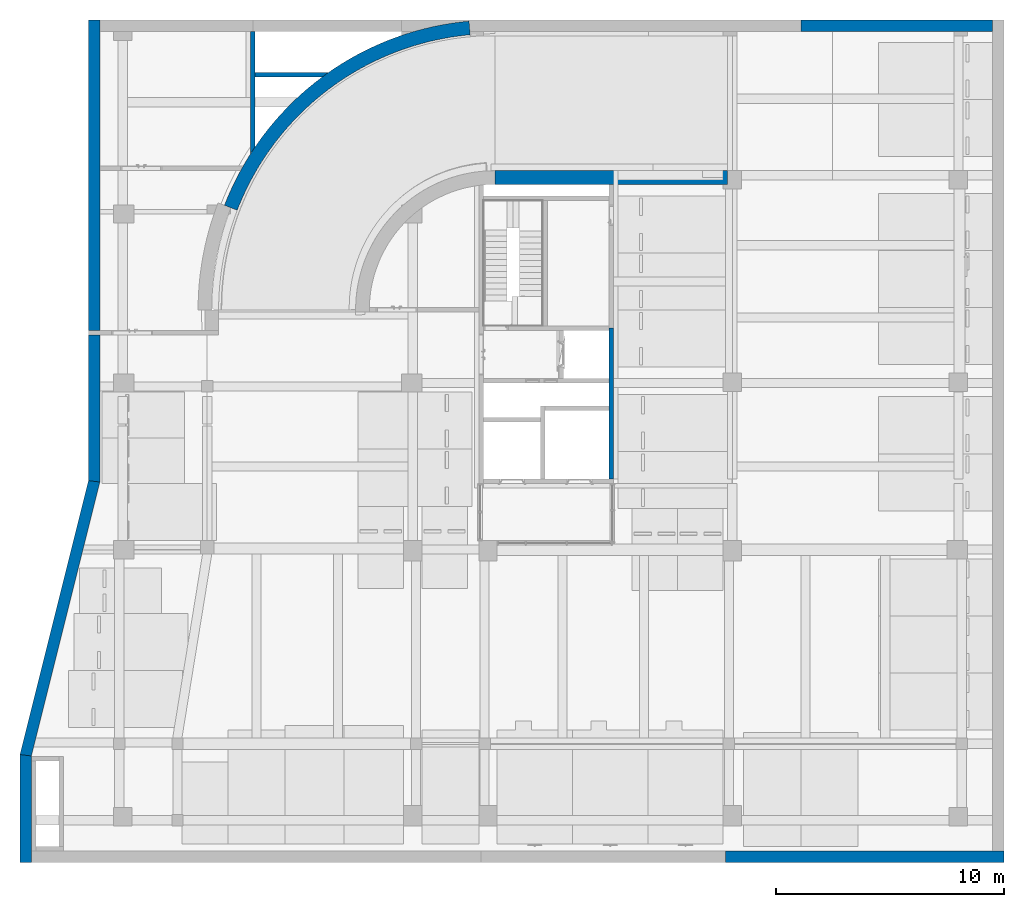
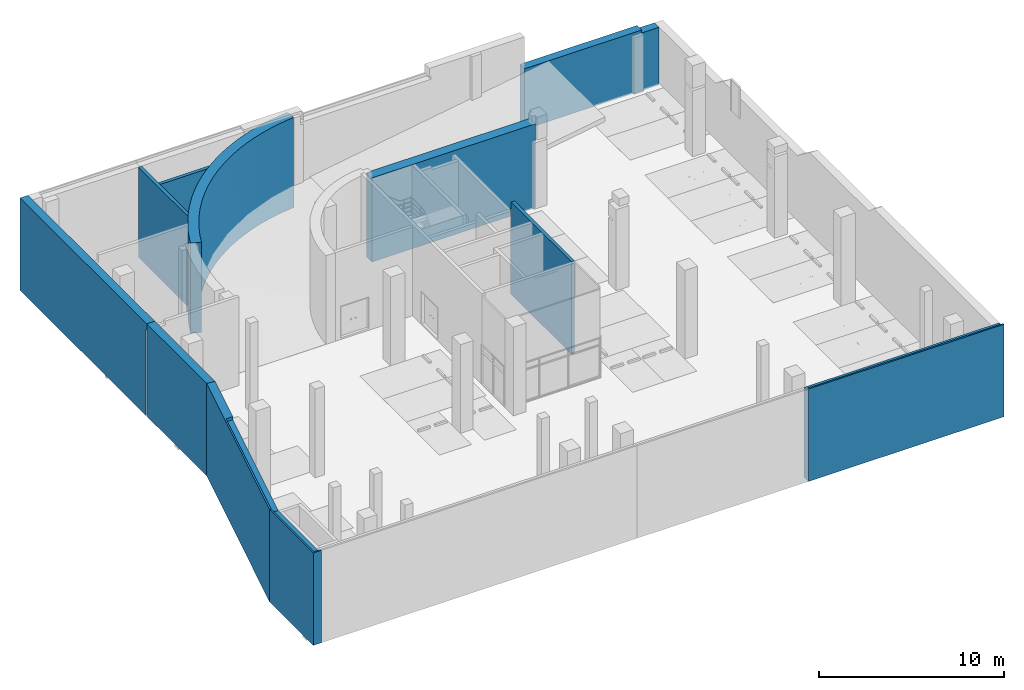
# One storey, part 14 of 29: 11 walls.
"""IFC2X3 building model written with IfcOpenShell, lengths in millimetres."""

import ifcopenshell
import ifcopenshell.guid

model = None  # the IFC model being written
_history = None  # IfcOwnerHistory: only IFC2X3 demands one
_inside = {}  # id of a spatial element -> (the spatial element, [elements in it])
_under = {}  # id of a project, library or spatial element -> (it, [spatial elements below it])
_declared = {}  # id of a project -> (the project, [libraries it declares])
_typed = {}  # id of a type object -> (the type object, [elements of that type])
_made_of = {}  # id of a material, layer set ... -> (it, [elements and type objects made of it])


def new_model(schema):
    """Start an empty IFC model of exactly this schema.

    Asked for "IFC4X3", IfcOpenShell would pick the latest addendum, in which some entities
    have other attributes; the version numbers below select the first issue.
    IFC2X3 requires an IfcOwnerHistory on every rooted entity: one is made here for all.
    """
    global model, _history
    if schema == "IFC4X3":
        model = ifcopenshell.file(schema_version=(4, 3, 0, 0))
    else:
        model = ifcopenshell.file(schema=schema)
    _inside.clear()
    _under.clear()
    _declared.clear()
    _typed.clear()
    _made_of.clear()
    _history = None
    if model.schema == "IFC2X3":
        org = make("IfcOrganization", Name="unknown")
        user = make(
            "IfcPersonAndOrganization",
            ThePerson=make("IfcPerson", FamilyName="unknown"),
            TheOrganization=org,
        )
        app = make(
            "IfcApplication",
            ApplicationDeveloper=org,
            Version="unknown",
            ApplicationFullName="unknown",
            ApplicationIdentifier="unknown",
        )
        _history = make(
            "IfcOwnerHistory",
            OwningUser=user,
            OwningApplication=app,
            ChangeAction="ADDED",
            CreationDate=0,
        )
    return model


def make(cls, **values):
    """One entity of the class cls with the attributes given. An attribute that is None is left unset."""
    return model.create_entity(
        cls, **{name: value for name, value in values.items() if value is not None}
    )


def entity(cls, *values):
    """Any entity or typed value of the class cls, its attributes in the order of the schema. None: left unset."""
    e = model.create_entity(cls)
    for i, value in enumerate(values):
        if value is not None:
            e[i] = value
    return e


def rooted(cls, **values):
    """An entity with a GlobalId (a new one), such as an element, a storey or a relation."""
    return make(cls, GlobalId=ifcopenshell.guid.new(), OwnerHistory=_history, **values)


def si_unit(unit_type, name, prefix=None):
    """IfcSIUnit, for example si_unit("LENGTHUNIT", "METRE", prefix="MILLI")."""
    return make("IfcSIUnit", UnitType=unit_type, Prefix=prefix, Name=name)


def converted_unit(unit_type, name, factor, base, dimensions=None, offset=None):
    """IfcConversionBasedUnit, such as the inch: factor (a typed value) times the base unit."""
    return make(
        "IfcConversionBasedUnit"
        if offset is None
        else "IfcConversionBasedUnitWithOffset",
        ConversionOffset=offset,
        Dimensions=None
        if dimensions is None
        else entity("IfcDimensionalExponents", *dimensions),
        UnitType=unit_type,
        Name=name,
        ConversionFactor=make(
            "IfcMeasureWithUnit", ValueComponent=factor, UnitComponent=base
        ),
    )


def derived_unit(unit_type, elements):
    """IfcDerivedUnit: a product of units, each with its exponent."""
    return make(
        "IfcDerivedUnit",
        Elements=[
            make("IfcDerivedUnitElement", Unit=unit, Exponent=power)
            for unit, power in elements
        ],
        UnitType=unit_type,
    )


def assignment(units):
    """IfcUnitAssignment: the units of a project."""
    return None if units is None else make("IfcUnitAssignment", Units=units)


def point(xyz):
    """IfcCartesianPoint."""
    return None if xyz is None else make("IfcCartesianPoint", Coordinates=xyz)


def direction(xyz):
    """IfcDirection."""
    return None if xyz is None else make("IfcDirection", DirectionRatios=xyz)


def frame(location, z_axis=None, x_axis=None):
    """IfcAxis2Placement3D, a coordinate frame: its origin and axes. An axis left out is left unset."""
    return make(
        "IfcAxis2Placement3D",
        Location=point(location),
        Axis=direction(z_axis),
        RefDirection=direction(x_axis),
    )


def frame_2d(location, x_axis=None):
    """IfcAxis2Placement2D, a coordinate frame in the plane: its origin and x axis."""
    return make(
        "IfcAxis2Placement2D", Location=point(location), RefDirection=direction(x_axis)
    )


def origin():
    """The frame at (0, 0, 0) with its axes left unset."""
    return frame((0.0, 0.0, 0.0))


def place(relative_to, where):
    """IfcLocalPlacement: puts the frame where relative to a parent placement (None: the world)."""
    return make(
        "IfcLocalPlacement", PlacementRelTo=relative_to, RelativePlacement=where
    )


def context(
    kind, dimensions, precision=None, world=None, true_north=None, identifier=None
):
    """IfcGeometricRepresentationContext, for example the 3D "Model" context."""
    return make(
        "IfcGeometricRepresentationContext",
        ContextIdentifier=identifier,
        ContextType=kind,
        CoordinateSpaceDimension=dimensions,
        Precision=precision,
        WorldCoordinateSystem=world,
        TrueNorth=true_north,
    )


def subcontext(parent, identifier, kind, view, scale=None):
    """IfcGeometricRepresentationSubContext, for example "Body" below "Model"."""
    return make(
        "IfcGeometricRepresentationSubContext",
        ContextIdentifier=identifier,
        ContextType=kind,
        ParentContext=parent,
        TargetScale=scale,
        TargetView=view,
    )


def project(units=None, contexts=None):
    """IfcProject with its units and contexts."""
    return rooted(
        "IfcProject",
        Name="project",
        RepresentationContexts=contexts,
        UnitsInContext=assignment(units),
    )


def spatial(cls, under=None, at=None, **own):
    """A site, building, storey or space (cls), placed at a placement, below another one or the project."""
    s = rooted(cls, ObjectPlacement=at, **own)
    if under is not None:
        _under.setdefault(under.id(), (under, []))[1].append(s)
    return s


def polyline(points):
    """IfcPolyline through the points."""
    return make("IfcPolyline", Points=[point(p) for p in points])


def circle_curve(where, radius):
    """IfcCircle in the frame where."""
    return make("IfcCircle", Position=where, Radius=radius)


def parameter(value):
    """IfcParameterValue: where a trimmed curve begins or ends, as a parameter of its basis curve."""
    return model.create_entity("IfcParameterValue", value)


def trimmed(basis, trim1, trim2, sense, master):
    """IfcTrimmedCurve: the piece of a basis curve between two trims."""
    return make(
        "IfcTrimmedCurve",
        BasisCurve=basis,
        Trim1=trim1,
        Trim2=trim2,
        SenseAgreement=sense,
        MasterRepresentation=master,
    )


def segment(curve, same_sense, transition):
    """IfcCompositeCurveSegment."""
    return make(
        "IfcCompositeCurveSegment",
        Transition=transition,
        SameSense=same_sense,
        ParentCurve=curve,
    )


def composite_curve(segments, self_intersect=None):
    """IfcCompositeCurve: segments joined end to end."""
    return make("IfcCompositeCurve", Segments=segments, SelfIntersect=self_intersect)


def profile(cls, at=None, kind="AREA", **sizes):
    """A parametric profile (cls). Its sizes go by their IFC names, for example OverallWidth=200.0."""
    return make(cls, ProfileType=kind, Position=at, **sizes)


def rectangle(**sizes):
    """IfcRectangleProfileDef."""
    return profile("IfcRectangleProfileDef", **sizes)


def outline(outer, holes=None, kind="AREA"):
    """IfcArbitraryClosedProfileDef: a profile drawn as a closed curve; with holes, ...WithVoids."""
    if holes is None:
        return make("IfcArbitraryClosedProfileDef", ProfileType=kind, OuterCurve=outer)
    return make(
        "IfcArbitraryProfileDefWithVoids",
        ProfileType=kind,
        OuterCurve=outer,
        InnerCurves=holes,
    )


def extrude(swept, where, along, depth):
    """IfcExtrudedAreaSolid: the profile swept, set in the frame where, extruded along a direction by depth."""
    return make(
        "IfcExtrudedAreaSolid",
        SweptArea=swept,
        Position=where,
        ExtrudedDirection=direction(along),
        Depth=depth,
    )


def clip(a, b, op="DIFFERENCE"):
    """IfcBooleanClippingResult: the solid a cut by the half space b."""
    return make(
        "IfcBooleanClippingResult", Operator=op, FirstOperand=a, SecondOperand=b
    )


def bounded_halfspace(plane, agree, where, boundary):
    """IfcPolygonalBoundedHalfSpace: a half space limited to a polygon's prism."""
    return make(
        "IfcPolygonalBoundedHalfSpace",
        BaseSurface=make("IfcPlane", Position=plane),
        AgreementFlag=agree,
        Position=where,
        PolygonalBoundary=boundary,
    )


def faces_of(points, faces, orient=None, outer=None):
    """IfcFace entities. A face is a list of loops; a loop is a list of indices into points, from 0.

    orient and outer hold one flag for each loop. By default every Orientation is true, the
    first loop of a face is its IfcFaceOuterBound and the others are IfcFaceBound.
    """
    made = []
    for i, loops in enumerate(faces):
        bounds = []
        for j, loop in enumerate(loops):
            is_outer = j == 0 if outer is None else outer[i][j]
            bounds.append(
                make(
                    "IfcFaceOuterBound" if is_outer else "IfcFaceBound",
                    Bound=make("IfcPolyLoop", Polygon=[points[k] for k in loop]),
                    Orientation=True if orient is None else orient[i][j],
                )
            )
        made.append(make("IfcFace", Bounds=bounds))
    return made


def faceted_brep(points, faces, orient=None, outer=None, voids=None):
    """IfcFacetedBrep: a solid bounded by flat faces; with voids (closed shells), ...WithVoids."""
    shared = [point(p) for p in points]
    hull = make("IfcClosedShell", CfsFaces=faces_of(shared, faces, orient, outer))
    if voids is None:
        return make("IfcFacetedBrep", Outer=hull)
    return make(
        "IfcFacetedBrepWithVoids",
        Outer=hull,
        Voids=[
            make(cls, CfsFaces=faces_of(shared, fs, o, b)) for cls, fs, o, b in voids
        ],
    )


def shape(context_of_items, identifier, shape_type, items):
    """IfcShapeRepresentation: the items that make up one representation, for example the "Body"."""
    return make(
        "IfcShapeRepresentation",
        ContextOfItems=context_of_items,
        RepresentationIdentifier=identifier,
        RepresentationType=shape_type,
        Items=items,
    )


def material(Name=None, Category=None):
    """IfcMaterial."""
    return make("IfcMaterial", Name=Name, Category=Category)


def layer(
    of_material, thickness, ventilated=None, Name=None, Category=None, Priority=None
):
    """IfcMaterialLayer: one layer of a wall or slab, of a material (None: an air gap)."""
    return make(
        "IfcMaterialLayer",
        Material=of_material,
        LayerThickness=thickness,
        IsVentilated=ventilated,
        Name=Name,
        Category=Category,
        Priority=Priority,
    )


def layer_set(layers, Name=None):
    """IfcMaterialLayerSet."""
    return make("IfcMaterialLayerSet", MaterialLayers=layers, LayerSetName=Name)


def layer_usage(for_layer_set, set_direction, sense, offset, extent=None):
    """IfcMaterialLayerSetUsage: how a layer set lies in its element."""
    return make(
        "IfcMaterialLayerSetUsage",
        ForLayerSet=for_layer_set,
        LayerSetDirection=set_direction,
        DirectionSense=sense,
        OffsetFromReferenceLine=offset,
        ReferenceExtent=extent,
    )


def made_of(thing, what):
    """Note that an element or type object is made of a material, layer set ...; save() writes the relation."""
    if what is not None:
        _made_of.setdefault(what.id(), (what, []))[1].append(thing)
    return thing


def type_object(cls, material=None, **own):
    """A type object (cls), such as IfcWallType, which elements share."""
    return made_of(rooted(cls, **own), material)


def element(
    cls,
    number,
    at=None,
    inside=None,
    cuts=None,
    type_object=None,
    material=None,
    context=None,
    identifier="Body",
    shape_type=None,
    held_by="IfcProductDefinitionShape",
    body=None,
    shapes=None,
    **own,
):
    """One element of the class cls, such as IfcWall. Its Tag is "e" and its number.

    at: its placement. inside: the storey or other place that contains it. cuts: it is an
    opening in that element (IfcRelVoidsElement). A single representation is given by context,
    identifier, shape_type and body (its items); several are given by shapes. held_by: the class
    of the entity that holds the representations. save() writes the other relations.
    """
    e = rooted(cls, Tag="e%d" % number, ObjectPlacement=at, **own)
    if body is not None:
        shapes = [shape(context, identifier, shape_type, body)]
    if shapes is not None:
        e.Representation = make(held_by, Representations=shapes)
    if inside is not None:
        _inside.setdefault(inside.id(), (inside, []))[1].append(e)
    if cuts is not None:
        rooted(
            "IfcRelVoidsElement", RelatingBuildingElement=cuts, RelatedOpeningElement=e
        )
    if type_object is not None:
        _typed.setdefault(type_object.id(), (type_object, []))[1].append(e)
    return made_of(e, material)


def aggregate(whole, parts):
    """IfcRelAggregates: a whole, such as a stair, and the parts it consists of."""
    return rooted("IfcRelAggregates", RelatingObject=whole, RelatedObjects=parts)


def save(model, path):
    """Write the relations noted so far, then the file.

    IfcRelAggregates (storeys below a building ...), IfcRelContainedInSpatialStructure (elements
    in a storey), IfcRelDefinesByType, IfcRelAssociatesMaterial and IfcRelDeclares: one each for
    every whole, place, type object, material and project.
    """
    for whole, parts in _under.values():
        aggregate(whole, parts)
    for where, things in _inside.values():
        rooted(
            "IfcRelContainedInSpatialStructure",
            RelatedElements=things,
            RelatingStructure=where,
        )
    for kind, things in _typed.values():
        rooted("IfcRelDefinesByType", RelatedObjects=things, RelatingType=kind)
    for what, things in _made_of.values():
        rooted("IfcRelAssociatesMaterial", RelatedObjects=things, RelatingMaterial=what)
    for by, libraries in _declared.values():
        rooted("IfcRelDeclares", RelatingContext=by, RelatedDefinitions=libraries)
    model.write(path)


model = new_model("IFC2X3")

# Units and contexts
model_context = context("Model", 3, precision=0.01, world=origin(), true_north=direction((6.123031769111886e-17, 1.0)))
body_context = subcontext(model_context, "Body", "Model", "MODEL_VIEW")
ifc_project = project(units=[si_unit("LENGTHUNIT", "METRE", prefix="MILLI"), si_unit("AREAUNIT", "SQUARE_METRE"), si_unit("VOLUMEUNIT", "CUBIC_METRE"), converted_unit("PLANEANGLEUNIT", "DEGREE", entity("IfcRatioMeasure", 0.017453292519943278), si_unit("PLANEANGLEUNIT", "RADIAN"), dimensions=[0, 0, 0, 0, 0, 0, 0]), si_unit("MASSUNIT", "GRAM", prefix="KILO"), derived_unit("MASSDENSITYUNIT", [(si_unit("MASSUNIT", "GRAM", prefix="KILO"), 1), (si_unit("LENGTHUNIT", "METRE"), -3)]), derived_unit("MOMENTOFINERTIAUNIT", [(si_unit("LENGTHUNIT", "METRE"), 4)]), si_unit("TIMEUNIT", "SECOND"), si_unit("FREQUENCYUNIT", "HERTZ"), si_unit("THERMODYNAMICTEMPERATUREUNIT", "DEGREE_CELSIUS"), derived_unit("THERMALTRANSMITTANCEUNIT", [(si_unit("MASSUNIT", "GRAM", prefix="KILO"), 1), (si_unit("THERMODYNAMICTEMPERATUREUNIT", "KELVIN"), -1), (si_unit("TIMEUNIT", "SECOND"), -3)]), derived_unit("VOLUMETRICFLOWRATEUNIT", [(si_unit("LENGTHUNIT", "METRE"), 3), (si_unit("TIMEUNIT", "SECOND"), -1)]), derived_unit("MASSFLOWRATEUNIT", [(si_unit("MASSUNIT", "GRAM", prefix="KILO"), 1), (si_unit("TIMEUNIT", "SECOND"), -1)]), derived_unit("ROTATIONALFREQUENCYUNIT", [(si_unit("TIMEUNIT", "SECOND"), -1)]), si_unit("ELECTRICCURRENTUNIT", "AMPERE"), si_unit("ELECTRICVOLTAGEUNIT", "VOLT"), si_unit("POWERUNIT", "WATT"), si_unit("FORCEUNIT", "NEWTON", prefix="KILO"), si_unit("ILLUMINANCEUNIT", "LUX"), si_unit("LUMINOUSFLUXUNIT", "LUMEN"), si_unit("LUMINOUSINTENSITYUNIT", "CANDELA"), derived_unit("USERDEFINED", [(si_unit("MASSUNIT", "GRAM", prefix="KILO"), -1), (si_unit("LENGTHUNIT", "METRE"), -2), (si_unit("TIMEUNIT", "SECOND"), 3), (si_unit("LUMINOUSFLUXUNIT", "LUMEN"), 1)]), derived_unit("SOUNDPOWERUNIT", [(si_unit("MASSUNIT", "GRAM", prefix="KILO"), 1), (si_unit("LENGTHUNIT", "METRE"), 2), (si_unit("TIMEUNIT", "SECOND"), -3)]), derived_unit("SOUNDPRESSUREUNIT", [(si_unit("MASSUNIT", "GRAM", prefix="KILO"), 1), (si_unit("LENGTHUNIT", "METRE"), -1), (si_unit("TIMEUNIT", "SECOND"), -2)]), derived_unit("LINEARVELOCITYUNIT", [(si_unit("LENGTHUNIT", "METRE"), 1), (si_unit("TIMEUNIT", "SECOND"), -1)]), si_unit("PRESSUREUNIT", "PASCAL"), derived_unit("USERDEFINED", [(si_unit("LENGTHUNIT", "METRE"), -2), (si_unit("MASSUNIT", "GRAM", prefix="KILO"), 1), (si_unit("TIMEUNIT", "SECOND"), -2)]), derived_unit("LINEARFORCEUNIT", [(si_unit("MASSUNIT", "GRAM", prefix="KILO"), 1), (si_unit("LENGTHUNIT", "METRE"), 1), (si_unit("TIMEUNIT", "SECOND"), -2), (si_unit("LENGTHUNIT", "METRE"), -1)]), derived_unit("PLANARFORCEUNIT", [(si_unit("MASSUNIT", "GRAM", prefix="KILO"), 1), (si_unit("LENGTHUNIT", "METRE"), 1), (si_unit("TIMEUNIT", "SECOND"), -2), (si_unit("LENGTHUNIT", "METRE"), -2)])], contexts=[model_context])

# Site, building, storey
site_placement = place(None, frame((-14167.972527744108, -657.2125860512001, 0.0)))
site = spatial("IfcSite", under=ifc_project, at=site_placement, Name="Default", CompositionType="ELEMENT")
building_placement = place(site_placement, origin())
building = spatial("IfcBuilding", under=site, at=building_placement, Name="Sample Building", CompositionType="ELEMENT")
storey_placement = place(building_placement, frame((0.0, 0.0, -6100.0)))
storey = spatial("IfcBuildingStorey", under=building, at=storey_placement, Name="지하1층", CompositionType="ELEMENT", Elevation=-6099.999999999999)

# Walls
ifc_material = material(Name="KBIMS-콘크리트")
ifc_layer_1 = layer(ifc_material, 200.0)
ifc_layer_set_1 = layer_set([ifc_layer_1], Name="기본 벽:WA111-철근콘크리트구조 벽 200mm_CW1")
wall_type_1 = type_object("IfcWallType", Name="기본 벽:WA111-철근콘크리트구조 벽 200mm_CW1", PredefinedType="STANDARD", material=ifc_layer_set_1)
wall_1_placement = place(storey_placement, frame((35867.97249113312, 22357.21231133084, 0.0), z_axis=(0.0, 0.0, 1.0), x_axis=(0.0, -1.0, 0.0)))
element("IfcWall", 1, at=wall_1_placement, inside=storey, type_object=wall_type_1, Name="기본 벽:WA111-철근콘크리트구조 벽 200mm_CW1", ObjectType="기본 벽:WA111-철근콘크리트구조 벽 200mm_CW1", context=body_context, shape_type="Brep", body=[
    faceted_brep([(0.0, -100.0, 0.0), (100.0, -100.0, 0.0), (2200.0, -100.0, 0.0), (2400.0, -100.0, 0.0), (3400.0, -100.0, 0.0), (3600.0, -100.0, 0.0), (6603.909364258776, -100.0, 0.0), (6603.909364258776, -100.0, 5250.0), (6603.909364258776, -100.0, 6100.0), (6486.135209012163, -100.0, 6100.0), (3600.0, -100.0, 6100.0), (3400.0, -100.0, 6100.0), (3225.0, -100.0, 6100.0), (2575.0, -100.0, 6100.0), (2400.0, -100.0, 6100.0), (2200.0, -100.0, 6100.0), (100.01741674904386, -100.0, 6100.0), (100.01741674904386, -100.0, 5600.0), (0.0, -100.0, 5600.0), (0.0, -100.0, 5500.0), (0.0, 100.0, 0.0), (0.0, 100.0, 5500.0), (0.0, 100.0, 5600.0), (100.01741674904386, 100.0, 5600.0), (100.01741674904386, 100.0, 6100.0), (2575.0, 100.0, 6100.0), (3225.0, 100.0, 6100.0), (6603.909364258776, 100.0, 6100.0), (6603.909364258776, 100.0, 0.0)], [[[0, 1, 2, 3, 4, 5, 6, 7, 8, 9, 10, 11, 12, 13, 14, 15, 16, 17, 18, 19]], [[20, 21, 22, 23, 24, 25, 26, 27, 28]], [[8, 7, 6, 28, 27]], [[6, 5, 4, 3, 2, 1, 0, 20, 28]], [[16, 15, 14, 13, 12, 11, 10, 9, 8, 27, 26, 25, 24]], [[0, 19, 18, 22, 21, 20]], [[17, 23, 22, 18]], [[17, 16, 24, 23]]]),
])
ifc_layer_2 = layer(ifc_material, 500.00000000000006)
ifc_layer_set_2 = layer_set([ifc_layer_2], Name="기본 벽:WA111-철근콘크리트구조 벽 500mm_BW1")
wall_type_2 = type_object("IfcWallType", Name="기본 벽:WA111-철근콘크리트구조 벽 500mm_BW1", PredefinedType="STANDARD", material=ifc_layer_set_2)
wall_2_placement = place(storey_placement, frame((10217.972491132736, -1042.78769201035, 0.0), z_axis=(0.0, 0.0, 1.0), x_axis=(0.0, 1.0, 0.0)))
element("IfcWall", 2, at=wall_2_placement, inside=storey, type_object=wall_type_2, Name="기본 벽:WA111-철근콘크리트구조 벽 500mm_BW1", ObjectType="기본 벽:WA111-철근콘크리트구조 벽 500mm_BW1", context=body_context, shape_type="Brep", body=[
    faceted_brep([(0.0, -250.0, 0.0), (500.0, -250.0, 0.0), (4663.068312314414, -250.0, 0.0), (4663.068312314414, -250.0, 5900.0), (2313.8643852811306, -250.0, 5900.0), (1913.864385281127, -250.0, 5900.0), (1799.9998871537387, -250.0, 5900.0), (500.0, -250.0, 5900.0), (99.999987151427, -250.0, 5900.0), (99.99998715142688, -250.0, 6100.0), (0.0, -250.0, 6100.0), (4724.621125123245, 250.0, 0.0), (0.0, 250.0, 0.0), (0.0, 250.0, 6100.0), (4724.621125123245, 250.0, 6100.0), (99.99998715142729, 150.00869298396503, 6100.0), (4712.311632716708, 150.00869298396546, 6100.0), (4712.311616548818, 150.00856165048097, 5900.0), (4712.310549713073, 150.00869298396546, 5900.0), (99.99998715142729, 150.00869298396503, 5900.0), (4712.311632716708, 150.00869298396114, 5900.0)], [[[0, 1, 2, 3, 4, 5, 6, 7, 8, 9, 10]], [[11, 12, 13, 14]], [[2, 1, 0, 12, 11]], [[14, 13, 10, 9, 15, 16]], [[0, 10, 13, 12]], [[2, 11, 14, 16, 17, 3]], [[18, 19, 8, 7, 6, 5, 4, 3]], [[19, 15, 9, 8]], [[19, 20, 16, 15]]]),
])
wall_3_placement = place(storey_placement, frame((13217.972491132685, 15620.280620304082, 0.0), z_axis=(0.0, 0.0, 1.0), x_axis=(0.0, 1.0, 0.0)))
element("IfcWall", 3, at=wall_3_placement, inside=storey, type_object=wall_type_2, Name="기본 벽:WA111-철근콘크리트구조 벽 500mm_BW1", ObjectType="기본 벽:WA111-철근콘크리트구조 벽 500mm_BW1", context=body_context, shape_type="Brep", body=[
    faceted_brep([(0.0, -250.0, 0.0), (412.31056256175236, -250.0, 0.0), (2541.5528128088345, -250.0, 0.0), (6436.931687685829, -250.0, 0.0), (6436.931687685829, -250.0, 5700.0), (6536.931687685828, -250.0, 5700.0), (6536.931687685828, -250.0, 6100.0), (0.0, -250.0, 6100.0), (61.55281280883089, 250.0, 0.0), (61.55281280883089, 250.0, 6100.0), (6536.931687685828, 250.0, 6100.0), (6536.931687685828, 250.0, 5700.0), (6436.931687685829, 250.0, 5700.0), (6436.931687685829, 250.0, 0.0), (2541.5528128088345, 250.0, 0.0), (10.856840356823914, -161.80873902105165, 0.0)], [[[0, 1, 2, 3, 4, 5, 6, 7]], [[8, 9, 10, 11, 12, 13, 14]], [[0, 7, 9, 8, 15]], [[4, 3, 13, 12]], [[3, 2, 1, 0, 15, 8, 14, 13]], [[7, 6, 10, 9]], [[6, 5, 11, 10]], [[11, 5, 4, 12]]]),
])
wall_4_placement = place(storey_placement, frame((10210.508116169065, 3621.199526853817, 0.0), z_axis=(0.0, 0.0, 1.0), x_axis=(0.24253562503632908, 0.9701425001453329, 0.0)))
element("IfcWall", 4, at=wall_4_placement, inside=storey, type_object=wall_type_2, Name="기본 벽:WA111-철근콘크리트구조 벽 500mm_BW1", ObjectType="기본 벽:WA111-철근콘크리트구조 벽 500mm_BW1", context=body_context, shape_type="Brep", body=[
    faceted_brep([(61.552812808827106, -250.0, 0.0), (12430.869689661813, -250.0, 0.0), (12430.869689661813, -250.0, 6100.0), (8964.29822020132, -250.0, 6100.0), (8964.298220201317, -250.0, 5900.0), (938.5338437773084, -250.0, 5900.0), (526.2232812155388, -250.0, 5900.0), (408.85444301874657, -250.0, 5900.0), (61.55281280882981, -250.0, 5900.0), (12369.316876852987, 250.0, 0.0), (0.0, 250.0, 0.0), (0.0, 250.0, 6100.0), (12369.316876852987, 250.0, 6100.0), (12.30952474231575, 150.00843031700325, 5900.0), (12.309492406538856, 150.00869298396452, 6100.0), (12.309492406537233, 150.00843031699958, 6100.0), (8864.296112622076, 150.00843031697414, 6100.0), (8864.296112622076, 150.00843031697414, 5900.0), (12.309508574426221, 150.00856165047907, 5900.0), (12.308441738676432, 150.00843031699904, 5900.0), (12.30952474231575, 150.00843031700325, 6100.0)], [[[0, 1, 2, 3, 4, 5, 6, 7, 8]], [[9, 10, 11, 12]], [[11, 10, 0, 8, 13, 14]], [[2, 1, 9, 12]], [[1, 0, 10, 9]], [[12, 11, 15, 16, 3, 2]], [[17, 18, 8, 7, 6, 5, 4]], [[19, 17, 16, 20]], [[16, 17, 4, 3]]]),
])
ifc_layer_3 = layer(ifc_material, 500.00000000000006)
ifc_layer_set_3 = layer_set([ifc_layer_3], Name="기본 벽:WA111-철근콘크리트구조 벽 500mm_BW5")
wall_type_3 = type_object("IfcWallType", Name="기본 벽:WA111-철근콘크리트구조 벽 500mm_BW5", PredefinedType="STANDARD", material=ifc_layer_set_3)
wall_5_placement = place(storey_placement, frame((13217.972491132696, 22157.21230798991, 0.0), z_axis=(0.0, 0.0, 1.0), x_axis=(0.0, 1.0, 0.0)))
element("IfcWall", 5, at=wall_5_placement, inside=storey, type_object=wall_type_3, Name="기본 벽:WA111-철근콘크리트구조 벽 500mm_BW5", ObjectType="기본 벽:WA111-철근콘크리트구조 벽 500mm_BW5", context=body_context, shape_type="Brep", body=[
    faceted_brep([(100.0, -250.0, 0.0), (7100.0, -250.0, 0.0), (7300.0, -250.0, 0.0), (13200.0, -250.0, 0.0), (13700.0, -250.0, 0.0), (13700.0, -250.0, 6100.0), (13200.0, -250.0, 6100.0), (0.0, -250.0, 6100.0), (0.0, -250.0, 5700.0), (100.0, -250.0, 5700.0), (100.0, -250.0, 160.0), (100.0, 250.0, 0.0), (100.0, 250.0, 5700.0), (0.0, 250.0, 5700.0), (0.0, 250.0, 6100.0), (13700.0, 250.0, 6100.0), (13700.0, 250.0, 0.0)], [[[0, 1, 2, 3, 4, 5, 6, 7, 8, 9, 10]], [[11, 12, 13, 14, 15, 16]], [[5, 4, 16, 15]], [[0, 10, 9, 12, 11]], [[4, 3, 2, 1, 0, 11, 16]], [[7, 6, 5, 15, 14]], [[8, 7, 14, 13]], [[8, 13, 12, 9]]]),
])
ifc_layer_4 = layer(ifc_material, 500.00000000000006)
ifc_layer_set_4 = layer_set([ifc_layer_4], Name="기본 벽:WA111-철근콘크리트구조 벽 500mm_BW3")
ifc_layer_usage_1 = layer_usage(ifc_layer_set_4, "AXIS2", "NEGATIVE", 250.00000000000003)
wall_type_4 = type_object("IfcWallType", Name="기본 벽:WA111-철근콘크리트구조 벽 500mm_BW3", PredefinedType="STANDARD", material=ifc_layer_set_4)
wall_6_placement = place(storey_placement, frame((53067.97249113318, -792.7876920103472, 0.0), z_axis=(0.0, 0.0, 1.0), x_axis=(-1.0, 0.0, 0.0)))
element("IfcWallStandardCase", 6, at=wall_6_placement, inside=storey, type_object=wall_type_4, material=ifc_layer_usage_1, Name="기본 벽:WA111-철근콘크리트구조 벽 500mm_BW3", ObjectType="기본 벽:WA111-철근콘크리트구조 벽 500mm_BW3", context=body_context, shape_type="Clipping", body=[
    clip(clip(extrude(rectangle(XDim=12200.00000000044, YDim=500.00000000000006, at=frame_2d((6100.00000000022, 0.0), x_axis=(-1.0, 0.0))), origin(), (0.0, 0.0, 1.0), 6100.0), bounded_halfspace(frame((12200.0, 150.00001284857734, 5900.0), z_axis=(0.0, 0.0, -1.0), x_axis=(0.0, -1.0, 0.0)), True, frame((12200.0, 150.00001284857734, 5900.0), z_axis=(0.0, 0.0, -1.0), x_axis=(0.0, -1.0, 0.0)), polyline([(0.0, 0.0), (121920.0039162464, 0.0), (121920.00391624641, 114493.82497458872), (121920.00391624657, 3108954.7101391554), (121920.00391624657, 3131905.982591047), (121920.00391624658, 3253825.9825910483), (121920.00391624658, 3566160.0), (121920.0039162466, 3718560.0), (0.0, 3718560.0), (0.0, 0.0)]))), bounded_halfspace(frame((0.0, 150.00001284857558, 5900.0), z_axis=(0.0, 1.0, 0.0), x_axis=(0.0, 0.0, 1.0)), True, frame((0.0, 150.00001284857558, 5900.0), z_axis=(0.0, 1.0, 0.0), x_axis=(0.0, 0.0, 1.0)), polyline([(0.0, 0.0), (60960.0, 0.0), (60960.0, 3718560.0), (0.0, 3718560.0), (0.0, 0.0)]))),
])
ifc_layer_usage_2 = layer_usage(ifc_layer_set_4, "AXIS2", "POSITIVE", -250.00000000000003)
wall_7_placement = place(storey_placement, frame((52567.97249113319, 35607.21230798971, 0.0), z_axis=(0.0, 0.0, 1.0), x_axis=(-1.0, 0.0, 0.0)))
element("IfcWallStandardCase", 7, at=wall_7_placement, inside=storey, type_object=wall_type_4, material=ifc_layer_usage_2, Name="기본 벽:WA111-철근콘크리트구조 벽 500mm_BW3", ObjectType="기본 벽:WA111-철근콘크리트구조 벽 500mm_BW3", context=body_context, shape_type="Clipping", body=[
    clip(clip(extrude(rectangle(XDim=8400.00869298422, YDim=499.999999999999, at=frame_2d((4200.00434649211, 0.0), x_axis=(-1.0, 0.0))), origin(), (0.0, 0.0, 1.0), 4000.0000000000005), bounded_halfspace(frame((1100.0086622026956, -250.0, 3800.0), z_axis=(0.0, 0.0, -1.0), x_axis=(1.0, 0.0, 0.0)), True, frame((1100.0086622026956, -250.0, 3800.0), z_axis=(0.0, 0.0, -1.0), x_axis=(1.0, 0.0, 0.0)), polyline([(0.0, -1.3167664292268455e-09), (-335282.64023938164, -1.3167664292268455e-09), (-335282.64023938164, -152400.0), (0.0, -152400.0), (0.0, -1.3167664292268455e-09)]))), bounded_halfspace(frame((1100.0086622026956, 250.0, 3800.0), z_axis=(1.0, 0.0, 0.0), x_axis=(0.0, 0.0, 1.0)), True, frame((1100.0086622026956, 250.0, 3800.0), z_axis=(1.0, 0.0, 0.0), x_axis=(0.0, 0.0, 1.0)), polyline([(0.0, 0.0), (60960.0, 0.0), (60960.0, 152400.0), (0.0, 152400.0), (0.0, 0.0)]))),
])
ifc_layer_5 = layer(ifc_material, 200.0)
ifc_layer_set_5 = layer_set([ifc_layer_5], Name="기본 벽:WA111-철근콘크리트구조 벽 200mm_W1")
ifc_layer_usage_3 = layer_usage(ifc_layer_set_5, "AXIS2", "NEGATIVE", 100.0)
wall_type_5 = type_object("IfcWallType", Name="기본 벽:WA111-철근콘크리트구조 벽 200mm_W1", PredefinedType="STANDARD", material=ifc_layer_set_5)
wall_8_placement = place(storey_placement, frame((20167.97249113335, 35357.21230798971, 0.0), z_axis=(0.0, 0.0, 1.0), x_axis=(0.0, -1.0, 0.0)))
element("IfcWallStandardCase", 8, at=wall_8_placement, inside=storey, type_object=wall_type_5, material=ifc_layer_usage_3, Name="기본 벽:WA111-철근콘크리트구조 벽 200mm_W1", ObjectType="기본 벽:WA111-철근콘크리트구조 벽 200mm_W1", context=body_context, shape_type="SweptSolid", body=[
    extrude(outline(composite_curve([segment(trimmed(circle_curve(frame_2d((12200.0, 10600.0), x_axis=(0.0, 1.0)), 12699.999999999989), [parameter(145.76852299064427)], [parameter(147.4071564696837)], True, "PARAMETER"), False, "CONTINUOUS"), segment(polyline([(5055.771560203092, 100.0), (2000.0, 100.0)]), True, "CONTINUOUS"), segment(polyline([(2000.0, 100.0), (1800.0, 100.0)]), True, "CONTINUOUS"), segment(polyline([(1800.0, 100.0), (0.0, 100.0)]), True, "CONTINUOUS"), segment(polyline([(0.0, 100.0), (0.0, 0.0)]), True, "CONTINUOUS"), segment(polyline([(0.0, 0.0), (0.0, -100.0)]), True, "CONTINUOUS"), segment(polyline([(0.0, -100.0), (5358.947449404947, -100.0)]), True, "CONTINUOUS")], self_intersect=False)), origin(), (0.0, 0.0, 1.0), 5950.000000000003),
])
ifc_layer_6 = layer(ifc_material, 600.0)
ifc_layer_set_6 = layer_set([ifc_layer_6], Name="기본 벽:WA111-철근콘크리트구조 벽 300mm_RaW1")
ifc_layer_usage_4 = layer_usage(ifc_layer_set_6, "AXIS2", "NEGATIVE", 300.0)
wall_type_6 = type_object("IfcWallType", Name="기본 벽:WA111-철근콘크리트구조 벽 300mm_RaW1", PredefinedType="STANDARD", material=ifc_layer_set_6)
wall_9_placement = place(storey_placement, frame((30767.97249113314, 28957.212307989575, 0.0)))
element("IfcWallStandardCase", 9, at=wall_9_placement, inside=storey, type_object=wall_type_6, material=ifc_layer_usage_4, Name="기본 벽:WA111-철근콘크리트구조 벽 300mm_RaW1", ObjectType="기본 벽:WA111-철근콘크리트구조 벽 300mm_RaW1", context=body_context, shape_type="SweptSolid", body=[
    extrude(rectangle(XDim=10199.991307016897, YDim=600.0000000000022, at=frame_2d((5099.995653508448, 0.0), x_axis=(-1.0, 0.0))), origin(), (0.0, 0.0, 1.0), 5550.000000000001),
])
ifc_layer_usage_5 = layer_usage(ifc_layer_set_6, "AXIS2", "POSITIVE", -300.0)
wall_10_placement = place(storey_placement, frame((19203.181471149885, 27631.093024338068, 0.0)))
element("IfcWallStandardCase", 10, at=wall_10_placement, inside=storey, type_object=wall_type_6, material=ifc_layer_usage_5, Name="기본 벽:WA111-철근콘크리트구조 벽 300mm_RaW1", ObjectType="기본 벽:WA111-철근콘크리트구조 벽 300mm_RaW1", context=body_context, shape_type="Clipping", body=[
    clip(clip(clip(extrude(outline(composite_curve([segment(polyline([(-279.7933311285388, 108.23904958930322), (0.0, 0.0)]), True, "CONTINUOUS"), segment(polyline([(0.0, 0.0), (279.79333112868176, -108.23904958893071)]), True, "CONTINUOUS"), segment(trimmed(circle_curve(frame_2d((11564.791019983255, -4473.880716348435), x_axis=(1.0, 0.0)), 12099.99999999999), [parameter(95.21603257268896)], [parameter(158.8508597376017)], True, "PARAMETER"), False, "CONTINUOUS"), segment(trimmed(circle_curve(frame_2d((11564.791019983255, -4473.880716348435), x_axis=(1.0, 0.0)), 12099.99999999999), [parameter(95.11617113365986)], [parameter(95.21603257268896)], True, "PARAMETER"), False, "CONTINUOUS"), segment(polyline([(10485.768492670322, 7577.912112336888), (10472.499190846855, 7726.119283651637)]), True, "CONTINUOUS"), segment(polyline([(10472.499190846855, 7726.119283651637), (10432.263243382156, 8175.521674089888)]), True, "CONTINUOUS"), segment(trimmed(circle_curve(frame_2d((11564.791019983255, -4473.880716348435), x_axis=(1.0, 0.0)), 12699.999999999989), [parameter(95.1161711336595)], [parameter(106.13080908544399)], True, "PARAMETER"), True, "CONTINUOUS"), segment(trimmed(circle_curve(frame_2d((11564.791019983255, -4473.880716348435), x_axis=(1.0, 0.0)), 12699.999999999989), [parameter(106.13080908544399)], [parameter(108.83452773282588)], True, "PARAMETER"), True, "CONTINUOUS"), segment(trimmed(circle_curve(frame_2d((11564.791019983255, -4473.880716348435), x_axis=(1.0, 0.0)), 12699.999999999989), [parameter(108.83452773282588)], [parameter(125.025405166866)], True, "PARAMETER"), True, "CONTINUOUS"), segment(trimmed(circle_curve(frame_2d((11564.791019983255, -4473.880716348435), x_axis=(1.0, 0.0)), 12699.999999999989), [parameter(125.025405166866)], [parameter(126.56807101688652)], True, "PARAMETER"), True, "CONTINUOUS"), segment(trimmed(circle_curve(frame_2d((11564.791019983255, -4473.880716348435), x_axis=(1.0, 0.0)), 12699.999999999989), [parameter(126.56807101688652)], [parameter(145.76852743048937)], True, "PARAMETER"), True, "CONTINUOUS"), segment(trimmed(circle_curve(frame_2d((11564.791019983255, -4473.880716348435), x_axis=(1.0, 0.0)), 12699.999999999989), [parameter(145.76852743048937)], [parameter(147.40716110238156)], True, "PARAMETER"), True, "CONTINUOUS"), segment(trimmed(circle_curve(frame_2d((11564.791019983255, -4473.880716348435), x_axis=(1.0, 0.0)), 12699.999999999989), [parameter(147.40716110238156)], [parameter(150.26011676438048)], True, "PARAMETER"), True, "CONTINUOUS"), segment(trimmed(circle_curve(frame_2d((11564.791019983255, -4473.880716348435), x_axis=(1.0, 0.0)), 12699.999999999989), [parameter(150.26011676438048)], [parameter(151.29401209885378)], True, "PARAMETER"), True, "CONTINUOUS"), segment(trimmed(circle_curve(frame_2d((11564.791019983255, -4473.880716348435), x_axis=(1.0, 0.0)), 12699.999999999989), [parameter(151.29401209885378)], [parameter(158.76433953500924)], True, "PARAMETER"), True, "CONTINUOUS"), segment(trimmed(circle_curve(frame_2d((11564.791019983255, -4473.880716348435), x_axis=(1.0, 0.0)), 12699.999999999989), [parameter(158.76433953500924)], [parameter(158.8508597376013)], True, "PARAMETER"), True, "CONTINUOUS")], self_intersect=False)), origin(), (0.0, 0.0, 1.0), 6100.0), bounded_halfspace(frame((-279.7933311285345, 108.23904958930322, 5950.0), z_axis=(0.0, 0.0, -1.0), x_axis=(1.0, 0.0, 0.0)), True, frame((-279.7933311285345, 108.23904958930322, 5950.0), z_axis=(0.0, 0.0, -1.0), x_axis=(1.0, 0.0, 0.0)), composite_curve([segment(trimmed(circle_curve(frame_2d((3610229.3102188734, 1396630.1046578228), x_axis=(1.0, 0.0)), 3870959.9999999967), [parameter(201.1491402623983)], [parameter(201.23566993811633)], True, "PARAMETER"), True, "CONTINUOUS"), segment(trimmed(circle_curve(frame_2d((3610229.3102188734, 1396630.1046578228), x_axis=(1.0, 0.0)), 3870959.9999999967), [parameter(201.23566993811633)], [parameter(201.3670685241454)], True, "PARAMETER"), True, "CONTINUOUS"), segment(trimmed(circle_curve(frame_2d((3610229.3102188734, 1396630.1046578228), x_axis=(1.0, 0.0)), 3870959.9999999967), [parameter(201.3670685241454)], [parameter(201.42587374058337)], True, "PARAMETER"), True, "CONTINUOUS"), segment(trimmed(circle_curve(frame_2d((3610229.3102188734, 1396630.1046578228), x_axis=(1.0, 0.0)), 3870959.9999999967), [parameter(201.42587374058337)], [parameter(201.7878225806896)], True, "PARAMETER"), True, "CONTINUOUS"), segment(trimmed(circle_curve(frame_2d((3610229.3102188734, 1396630.1046578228), x_axis=(1.0, 0.0)), 3870959.9999999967), [parameter(201.7878225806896)], [parameter(208.70599835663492)], True, "PARAMETER"), True, "CONTINUOUS"), segment(trimmed(circle_curve(frame_2d((3610229.3102188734, 1396630.1046578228), x_axis=(1.0, 0.0)), 3870959.9999999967), [parameter(208.70599835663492)], [parameter(209.7398947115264)], True, "PARAMETER"), True, "CONTINUOUS"), segment(trimmed(circle_curve(frame_2d((3610229.3102188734, 1396630.1046578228), x_axis=(1.0, 0.0)), 3870959.9999999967), [parameter(209.7398947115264)], [parameter(212.5928425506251)], True, "PARAMETER"), True, "CONTINUOUS"), segment(trimmed(circle_curve(frame_2d((3610229.3102188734, 1396630.1046578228), x_axis=(1.0, 0.0)), 3870959.9999999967), [parameter(212.5928425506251)], [parameter(214.23147794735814)], True, "PARAMETER"), True, "CONTINUOUS"), segment(trimmed(circle_curve(frame_2d((3610229.3102188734, 1396630.1046578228), x_axis=(1.0, 0.0)), 3870959.9999999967), [parameter(214.23147794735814)], [parameter(220.80929421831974)], True, "PARAMETER"), True, "CONTINUOUS"), segment(trimmed(circle_curve(frame_2d((3610229.3102188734, 1396630.1046578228), x_axis=(1.0, 0.0)), 3870959.9999999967), [parameter(220.80929421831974)], [parameter(221.49150287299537)], True, "PARAMETER"), True, "CONTINUOUS"), segment(trimmed(circle_curve(frame_2d((3610229.3102188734, 1396630.1046578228), x_axis=(1.0, 0.0)), 3870959.9999999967), [parameter(221.49150287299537)], [parameter(223.94797837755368)], True, "PARAMETER"), True, "CONTINUOUS"), segment(trimmed(circle_curve(frame_2d((3610229.3102188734, 1396630.1046578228), x_axis=(1.0, 0.0)), 3870959.9999999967), [parameter(223.94797837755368)], [parameter(233.4319839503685)], True, "PARAMETER"), True, "CONTINUOUS"), segment(trimmed(circle_curve(frame_2d((3610229.3102188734, 1396630.1046578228), x_axis=(1.0, 0.0)), 3870959.9999999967), [parameter(233.4319839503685)], [parameter(234.97465063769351)], True, "PARAMETER"), True, "CONTINUOUS"), segment(trimmed(circle_curve(frame_2d((3610229.3102188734, 1396630.1046578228), x_axis=(1.0, 0.0)), 3870959.9999999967), [parameter(234.97465063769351)], [parameter(251.1655144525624)], True, "PARAMETER"), True, "CONTINUOUS"), segment(trimmed(circle_curve(frame_2d((3610229.3102188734, 1396630.1046578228), x_axis=(1.0, 0.0)), 3870959.9999999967), [parameter(251.1655144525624)], [parameter(253.86924297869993)], True, "PARAMETER"), True, "CONTINUOUS"), segment(trimmed(circle_curve(frame_2d((3610229.3102188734, 1396630.1046578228), x_axis=(1.0, 0.0)), 3870959.9999999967), [parameter(253.86924297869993)], [parameter(262.80515934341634)], True, "PARAMETER"), True, "CONTINUOUS"), segment(polyline([(3125415.200191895, -2443849.891425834), (3266383.0, -2443849.891425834)]), True, "CONTINUOUS"), segment(polyline([(3266383.0, -2443849.8914258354), (3277298.760698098, -2321929.895342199)]), True, "CONTINUOUS"), segment(polyline([(3277298.760698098, -2321929.895342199), (3281343.2438938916, -2276756.349525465)]), True, "CONTINUOUS"), segment(trimmed(circle_curve(frame_2d((3610229.3102188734, 1396630.1046578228), x_axis=(1.0, 0.0)), 3688079.999999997), [parameter(264.783966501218)], [parameter(264.8838288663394)], True, "PARAMETER"), False, "CONTINUOUS"), segment(trimmed(circle_curve(frame_2d((3610229.3102188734, 1396630.1046578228), x_axis=(1.0, 0.0)), 3688079.999999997), [parameter(255.03428209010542)], [parameter(264.783966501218)], True, "PARAMETER"), False, "CONTINUOUS"), segment(trimmed(circle_curve(frame_2d((3610229.3102188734, 1396630.1046578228), x_axis=(1.0, 0.0)), 3688079.999999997), [parameter(253.06426460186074)], [parameter(255.03428209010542)], True, "PARAMETER"), False, "CONTINUOUS"), segment(trimmed(circle_curve(frame_2d((3610229.3102188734, 1396630.1046578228), x_axis=(1.0, 0.0)), 3688079.999999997), [parameter(252.6911221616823)], [parameter(253.06426460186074)], True, "PARAMETER"), False, "CONTINUOUS"), segment(trimmed(circle_curve(frame_2d((3610229.3102188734, 1396630.1046578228), x_axis=(1.0, 0.0)), 3688079.999999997), [parameter(226.7540211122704)], [parameter(252.6911221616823)], True, "PARAMETER"), False, "CONTINUOUS"), segment(trimmed(circle_curve(frame_2d((3610229.3102188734, 1396630.1046578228), x_axis=(1.0, 0.0)), 3688079.999999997), [parameter(224.05600622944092)], [parameter(226.7540211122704)], True, "PARAMETER"), False, "CONTINUOUS"), segment(trimmed(circle_curve(frame_2d((3610229.3102188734, 1396630.1046578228), x_axis=(1.0, 0.0)), 3688079.999999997), [parameter(223.31039640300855)], [parameter(224.05600622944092)], True, "PARAMETER"), False, "CONTINUOUS"), segment(trimmed(circle_curve(frame_2d((3610229.3102188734, 1396630.1046578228), x_axis=(1.0, 0.0)), 3688079.999999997), [parameter(202.92810076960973)], [parameter(223.31039640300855)], True, "PARAMETER"), False, "CONTINUOUS"), segment(trimmed(circle_curve(frame_2d((3610229.3102188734, 1396630.1046578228), x_axis=(1.0, 0.0)), 3688079.999999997), [parameter(201.32368626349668)], [parameter(202.92810076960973)], True, "PARAMETER"), False, "CONTINUOUS"), segment(polyline([(174631.6574079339, 55510.10465784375), (143491.25525837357, 55510.10465784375)]), True, "CONTINUOUS"), segment(polyline([(143491.2552583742, 55510.10465784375), (85281.00732799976, 32991.262314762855)]), True, "CONTINUOUS"), segment(polyline([(85281.00732799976, 32991.26231476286), (0.0, 0.0)]), True, "CONTINUOUS")], self_intersect=False))), bounded_halfspace(frame((293.14517742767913, -73.88071634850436, 5950.0), z_axis=(0.0, -1.0, 0.0), x_axis=(0.0, 0.0, 1.0)), True, frame((293.14517742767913, -73.88071634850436, 5950.0), z_axis=(0.0, -1.0, 0.0), x_axis=(0.0, 0.0, 1.0)), polyline([(0.0, 8.57630766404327e-09), (45720.0, 8.57630766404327e-09), (45720.0, 31140.402149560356), (0.0, 31140.402149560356), (0.0, 8.57630766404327e-09)]))), bounded_halfspace(frame((9974.193546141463, 8126.119270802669, 5950.0), z_axis=(0.0, 1.0, 0.0), x_axis=(0.0, 0.0, 1.0)), True, frame((9974.193546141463, 8126.119270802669, 5950.0), z_axis=(0.0, 1.0, 0.0), x_axis=(0.0, 0.0, 1.0)), polyline([(0.0, 0.0), (45720.0, 0.0), (45720.0, 140967.80513486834), (0.0, 140967.80513486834), (0.0, 0.0)]))),
])
ifc_layer_7 = layer(ifc_material, 200.0)
ifc_layer_set_7 = layer_set([ifc_layer_7], Name="기본 벽:WA111-철근콘크리트구조 벽 200mm_BT1")
ifc_layer_usage_6 = layer_usage(ifc_layer_set_7, "AXIS2", "NEGATIVE", 100.0)
wall_type_7 = type_object("IfcWallType", Name="기본 벽:WA111-철근콘크리트구조 벽 200mm_BT1", PredefinedType="STANDARD", material=ifc_layer_set_7)
wall_11_placement = place(storey_placement, frame((23478.93963347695, 33457.21230799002, 0.0), z_axis=(0.0, 0.0, 1.0), x_axis=(-1.0, 0.0, 0.0)))
element("IfcWallStandardCase", 11, at=wall_11_placement, inside=storey, type_object=wall_type_7, material=ifc_layer_usage_6, Name="기본 벽:WA111-철근콘크리트구조 벽 200mm_BT1", ObjectType="기본 벽:WA111-철근콘크리트구조 벽 200mm_BT1", context=body_context, shape_type="Clipping", body=[
    clip(extrude(outline(composite_curve([segment(polyline([(3210.967142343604, -100.0), (3210.9671423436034, 100.0)]), True, "CONTINUOUS"), segment(polyline([(3210.9671423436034, 100.0), (277.3401175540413, 100.0)]), True, "CONTINUOUS"), segment(trimmed(circle_curve(frame_2d((-7289.032857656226, 10300.0), x_axis=(-1.0, 0.0)), 12699.999999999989), [parameter(125.025405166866)], [parameter(126.56807101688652)], True, "PARAMETER"), False, "CONTINUOUS"), segment(polyline([(0.0, -100.0), (3210.967142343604, -100.0)]), True, "CONTINUOUS")], self_intersect=False)), origin(), (0.0, 0.0, 1.0), 5950.000000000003), bounded_halfspace(frame((0.0, -100.0, 5950.0), z_axis=(0.0, 0.0, -1.0), x_axis=(-1.0, 0.0, 0.0)), True, frame((0.0, -100.0, 5950.0), z_axis=(0.0, 0.0, -1.0), x_axis=(-1.0, 0.0, 0.0)), composite_curve([segment(trimmed(circle_curve(frame_2d((2221697.215013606, 3169920.0), x_axis=(1.0, 0.0)), 3870959.9999999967), [parameter(233.43192898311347)], [parameter(234.97459483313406)], True, "PARAMETER"), False, "CONTINUOUS"), segment(polyline([(-84533.2678304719, 60960.0), (-978702.7849863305, 60960.0)]), True, "CONTINUOUS"), segment(polyline([(-978702.7849863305, 60960.0), (-978702.7849863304, -3.6074809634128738e-09)]), True, "CONTINUOUS"), segment(polyline([(-978702.7849863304, -3.6074809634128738e-09), (0.0, 0.0)]), True, "CONTINUOUS")], self_intersect=False))),
])

save(model, "model.ifc")
